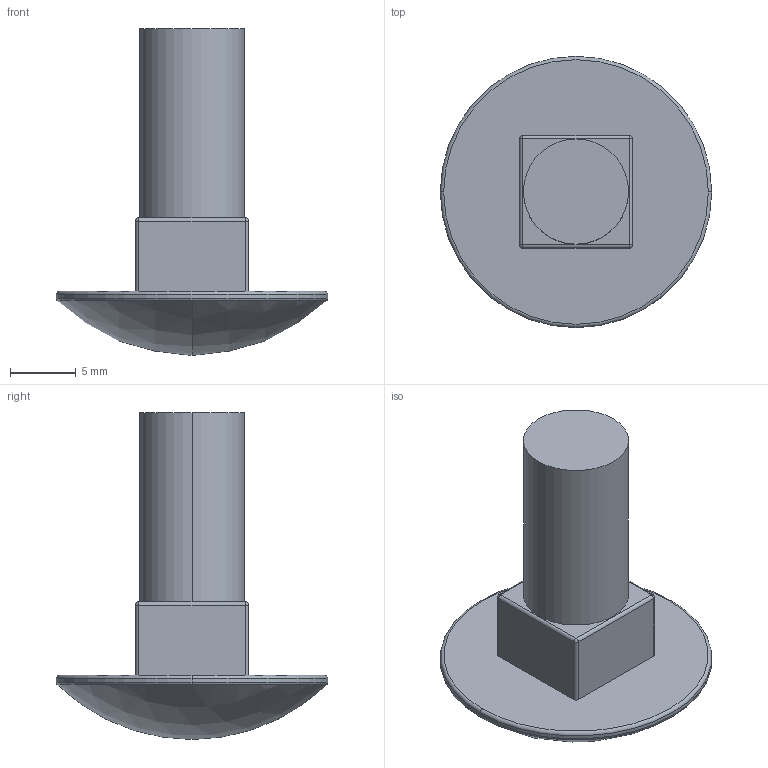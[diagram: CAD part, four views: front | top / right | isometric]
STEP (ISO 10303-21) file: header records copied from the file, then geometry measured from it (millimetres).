
FILE_DESCRIPTION((''),'2;1');
FILE_NAME('807-3540','2023-03-02T',('jenni.wallner'),(''),'PRO/ENGINEER BY PARAMETRIC TECHNOLOGY CORPORATION, 2012420','PRO/ENGINEER BY PARAMETRIC TECHNOLOGY CORPORATION, 2012420','');
FILE_SCHEMA(('CONFIG_CONTROL_DESIGN'));
Length unit declared in the file: inch
Products named in the file (1): 807-3540
Bounding box: 20.65 x 20.65 x 24.88 mm (x, y, z)
Volume: 2097.9 mm3; surface area: 1307.7 mm2
Topology: 1 solids, 1 shells, 29 faces, 64 edges, 35 vertices
Faces by surface type: cylinder 12, plane 7, sphere 6, torus 4
Entity records: 810 total; most frequent: DIRECTION 154, CARTESIAN_POINT 124, ORIENTED_EDGE 120, AXIS2_PLACEMENT_3D 65, EDGE_CURVE 60, CIRCLE 36, VERTEX_POINT 35, EDGE_LOOP 31
